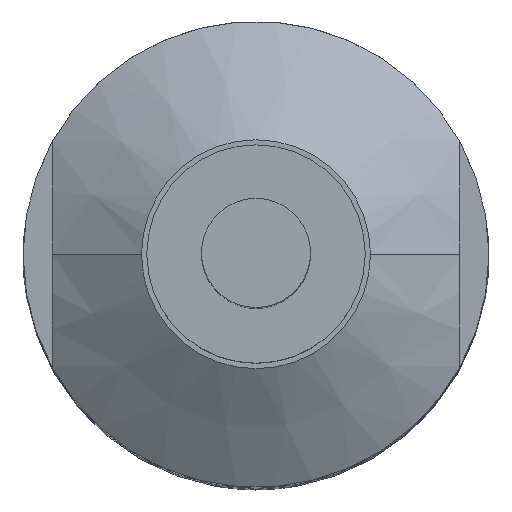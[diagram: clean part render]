
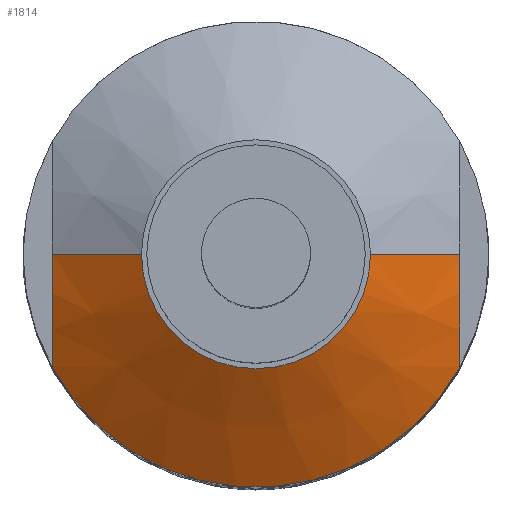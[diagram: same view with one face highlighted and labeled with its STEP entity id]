
A CAD part, top view. The second image highlights one B-rep face of the part: STEP entity #1814.
In plain terms, the highlighted conical face has half-angle 58.432 degrees and reference radius 16 mm.
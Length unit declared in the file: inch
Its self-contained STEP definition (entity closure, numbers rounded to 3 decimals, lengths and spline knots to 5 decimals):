
#47 = EDGE_CURVE ( 'NONE', #949, #2263, #416, .T. ) ;
#51 = CARTESIAN_POINT ( 'NONE',  ( -0.55118, 0., 4.33972 ) ) ;
#130 = ORIENTED_EDGE ( 'NONE', *, *, #3158, .F. ) ;
#278 = CARTESIAN_POINT ( 'NONE',  ( 0.30954, 0., 4.48819 ) ) ;
#289 = EDGE_CURVE ( 'NONE', #2781, #3165, #1316, .T. ) ;
#380 = DIRECTION ( 'NONE',  ( -1., 0., 0. ) ) ;
#385 = LINE ( 'NONE', #3378, #1179 ) ;
#416 = CIRCLE ( 'NONE', #749, 0.30954 ) ;
#419 = DIRECTION ( 'NONE',  ( 0., 0., -1. ) ) ;
#423 = CARTESIAN_POINT ( 'NONE',  ( 0., 0., 4.29134 ) ) ;
#749 = AXIS2_PLACEMENT_3D ( 'NONE', #3047, #3005, #3004 ) ;
#863 = B_SPLINE_CURVE_WITH_KNOTS ( 'NONE', 3,
 ( #2517, #2226, #2219, #2213, #2207, #2204 ),
 .UNSPECIFIED., .F., .F.,
 ( 4, 2, 4 ),
 ( 0.00784, 0.01176, 0.01569 ),
 .UNSPECIFIED. ) ;
#949 = VERTEX_POINT ( 'NONE', #278 ) ;
#1028 = VERTEX_POINT ( 'NONE', #51 ) ;
#1084 = ORIENTED_EDGE ( 'NONE', *, *, #289, .F. ) ;
#1179 = VECTOR ( 'NONE', #3723, 39.37008 ) ;
#1316 = B_SPLINE_CURVE_WITH_KNOTS ( 'NONE', 3,
 ( #2343, #2408, #2354, #2342, #2336, #2332 ),
 .UNSPECIFIED., .F., .F.,
 ( 4, 2, 4 ),
 ( 0.00784, 0.01176, 0.01569 ),
 .UNSPECIFIED. ) ;
#1344 = EDGE_CURVE ( 'NONE', #1028, #3417, #863, .T. ) ;
#1416 = FACE_OUTER_BOUND ( 'NONE', #3242, .T. ) ;
#1681 = VECTOR ( 'NONE', #2639, 39.37008 ) ;
#1799 = ORIENTED_EDGE ( 'NONE', *, *, #3391, .T. ) ;
#1814 = ADVANCED_FACE ( 'NONE', ( #1416 ), #2022, .T. ) ;
#2022 = CONICAL_SURFACE ( 'NONE', #2702, 0.62992, 1.02 ) ;
#2027 = ORIENTED_EDGE ( 'NONE', *, *, #1344, .T. ) ;
#2204 = CARTESIAN_POINT ( 'NONE',  ( -0.55118, -0.30496, 4.29134 ) ) ;
#2207 = CARTESIAN_POINT ( 'NONE',  ( -0.55118, -0.2552, 4.30614 ) ) ;
#2213 = CARTESIAN_POINT ( 'NONE',  ( -0.55118, -0.20502, 4.3183 ) ) ;
#2219 = CARTESIAN_POINT ( 'NONE',  ( -0.55118, -0.10348, 4.33511 ) ) ;
#2220 = ORIENTED_EDGE ( 'NONE', *, *, #47, .T. ) ;
#2226 = CARTESIAN_POINT ( 'NONE',  ( -0.55118, -0.05211, 4.33972 ) ) ;
#2263 = VERTEX_POINT ( 'NONE', #3469 ) ;
#2332 = CARTESIAN_POINT ( 'NONE',  ( 0.55118, -0.30496, 4.29134 ) ) ;
#2336 = CARTESIAN_POINT ( 'NONE',  ( 0.55118, -0.2552, 4.30614 ) ) ;
#2342 = CARTESIAN_POINT ( 'NONE',  ( 0.55118, -0.20502, 4.3183 ) ) ;
#2343 = CARTESIAN_POINT ( 'NONE',  ( 0.55118, 0., 4.33972 ) ) ;
#2354 = CARTESIAN_POINT ( 'NONE',  ( 0.55118, -0.10348, 4.33511 ) ) ;
#2408 = CARTESIAN_POINT ( 'NONE',  ( 0.55118, -0.05211, 4.33972 ) ) ;
#2411 = LINE ( 'NONE', #2653, #1681 ) ;
#2517 = CARTESIAN_POINT ( 'NONE',  ( -0.55118, 0., 4.33972 ) ) ;
#2614 = CARTESIAN_POINT ( 'NONE',  ( -0.55118, -0.30496, 4.29134 ) ) ;
#2639 = DIRECTION ( 'NONE',  ( -0.852, 0., -0.524 ) ) ;
#2653 = CARTESIAN_POINT ( 'NONE',  ( -0.62992, 0., 4.29134 ) ) ;
#2702 = AXIS2_PLACEMENT_3D ( 'NONE', #423, #419, #380 ) ;
#2740 = EDGE_CURVE ( 'NONE', #3165, #3417, #3670, .T. ) ;
#2781 = VERTEX_POINT ( 'NONE', #3732 ) ;
#3004 = DIRECTION ( 'NONE',  ( -1., 0., 0. ) ) ;
#3005 = DIRECTION ( 'NONE',  ( 0., 0., -1. ) ) ;
#3031 = AXIS2_PLACEMENT_3D ( 'NONE', #3745, #3738, #3736 ) ;
#3047 = CARTESIAN_POINT ( 'NONE',  ( 0., 0., 4.48819 ) ) ;
#3158 = EDGE_CURVE ( 'NONE', #949, #2781, #385, .T. ) ;
#3165 = VERTEX_POINT ( 'NONE', #3306 ) ;
#3242 = EDGE_LOOP ( 'NONE', ( #130, #2220, #1799, #2027, #3491, #1084 ) ) ;
#3306 = CARTESIAN_POINT ( 'NONE',  ( 0.55118, -0.30496, 4.29134 ) ) ;
#3378 = CARTESIAN_POINT ( 'NONE',  ( 0.62992, 0., 4.29134 ) ) ;
#3391 = EDGE_CURVE ( 'NONE', #2263, #1028, #2411, .T. ) ;
#3417 = VERTEX_POINT ( 'NONE', #2614 ) ;
#3469 = CARTESIAN_POINT ( 'NONE',  ( -0.30954, 0., 4.48819 ) ) ;
#3491 = ORIENTED_EDGE ( 'NONE', *, *, #2740, .F. ) ;
#3670 = CIRCLE ( 'NONE', #3031, 0.62992 ) ;
#3723 = DIRECTION ( 'NONE',  ( 0.852, 0., -0.524 ) ) ;
#3732 = CARTESIAN_POINT ( 'NONE',  ( 0.55118, 0., 4.33972 ) ) ;
#3736 = DIRECTION ( 'NONE',  ( -1., 0., 0. ) ) ;
#3738 = DIRECTION ( 'NONE',  ( 0., 0., -1. ) ) ;
#3745 = CARTESIAN_POINT ( 'NONE',  ( 0., 0., 4.29134 ) ) ;
